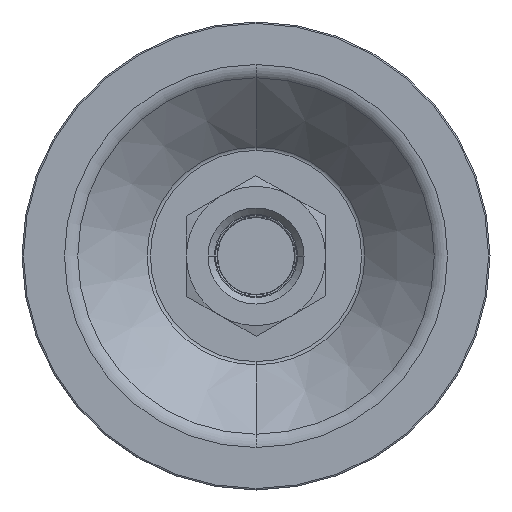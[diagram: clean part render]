
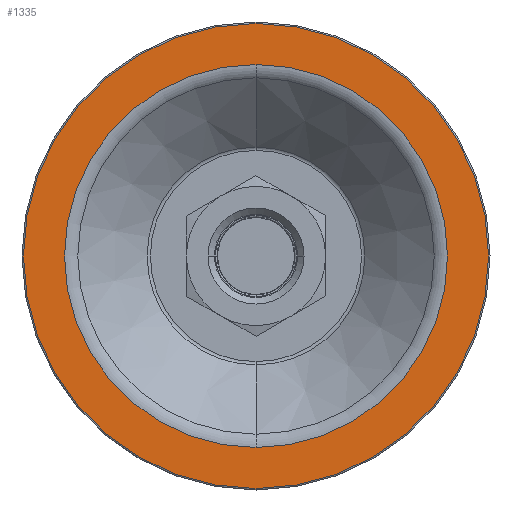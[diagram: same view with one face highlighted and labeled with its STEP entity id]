
A CAD part, front view. The second image highlights one B-rep face of the part: STEP entity #1335.
In plain terms, the highlighted planar face has unit normal (0, -1, 0).
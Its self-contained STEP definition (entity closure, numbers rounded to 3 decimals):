
#380 = AXIS2_PLACEMENT_3D ( 'NONE', #2606, #7900, #5296 ) ;
#389 = EDGE_LOOP ( 'NONE', ( #5267, #4303 ) ) ;
#939 = EDGE_CURVE ( 'NONE', #2965, #5353, #4649, .T. ) ;
#1234 = CARTESIAN_POINT ( 'NONE',  ( 0., 0., 0. ) ) ;
#1240 = FACE_OUTER_BOUND ( 'NONE', #389, .T. ) ;
#1335 = ADVANCED_FACE ( 'NONE', ( #1240, #2369 ), #1630, .F. ) ;
#1407 = AXIS2_PLACEMENT_3D ( 'NONE', #2442, #5814, #6488 ) ;
#1630 = PLANE ( 'NONE',  #3518 ) ;
#2198 = ORIENTED_EDGE ( 'NONE', *, *, #3231, .T. ) ;
#2262 = AXIS2_PLACEMENT_3D ( 'NONE', #3013, #4468, #2935 ) ;
#2369 = FACE_BOUND ( 'NONE', #6184, .T. ) ;
#2442 = CARTESIAN_POINT ( 'NONE',  ( 0., 0., 0. ) ) ;
#2606 = CARTESIAN_POINT ( 'NONE',  ( 0., 0., 0. ) ) ;
#2660 = AXIS2_PLACEMENT_3D ( 'NONE', #1234, #6461, #7158 ) ;
#2935 = DIRECTION ( 'NONE',  ( 0., 0., 1. ) ) ;
#2943 = EDGE_CURVE ( 'NONE', #5353, #2965, #5034, .T. ) ;
#2965 = VERTEX_POINT ( 'NONE', #3724 ) ;
#3013 = CARTESIAN_POINT ( 'NONE',  ( 0., 0., 0. ) ) ;
#3231 = EDGE_CURVE ( 'NONE', #3671, #5257, #7894, .T. ) ;
#3518 = AXIS2_PLACEMENT_3D ( 'NONE', #6279, #5524, #6901 ) ;
#3671 = VERTEX_POINT ( 'NONE', #7129 ) ;
#3724 = CARTESIAN_POINT ( 'NONE',  ( 0., 0., -48.45 ) ) ;
#3733 = EDGE_CURVE ( 'NONE', #5257, #3671, #6286, .T. ) ;
#4303 = ORIENTED_EDGE ( 'NONE', *, *, #939, .T. ) ;
#4468 = DIRECTION ( 'NONE',  ( 0., -1., 0. ) ) ;
#4593 = CARTESIAN_POINT ( 'NONE',  ( 0., 0., -39.901 ) ) ;
#4649 = CIRCLE ( 'NONE', #2262, 48.45 ) ;
#5034 = CIRCLE ( 'NONE', #1407, 48.45 ) ;
#5257 = VERTEX_POINT ( 'NONE', #4593 ) ;
#5267 = ORIENTED_EDGE ( 'NONE', *, *, #2943, .T. ) ;
#5296 = DIRECTION ( 'NONE',  ( 0., 0., 1. ) ) ;
#5353 = VERTEX_POINT ( 'NONE', #6925 ) ;
#5524 = DIRECTION ( 'NONE',  ( 0., 1., 0. ) ) ;
#5814 = DIRECTION ( 'NONE',  ( 0., -1., 0. ) ) ;
#6184 = EDGE_LOOP ( 'NONE', ( #2198, #8113 ) ) ;
#6279 = CARTESIAN_POINT ( 'NONE',  ( 48.75, 0., 0. ) ) ;
#6286 = CIRCLE ( 'NONE', #2660, 39.901 ) ;
#6461 = DIRECTION ( 'NONE',  ( 0., 1., 0. ) ) ;
#6488 = DIRECTION ( 'NONE',  ( 0., 0., 1. ) ) ;
#6901 = DIRECTION ( 'NONE',  ( 0., 0., 1. ) ) ;
#6925 = CARTESIAN_POINT ( 'NONE',  ( 0., 0., 48.45 ) ) ;
#7129 = CARTESIAN_POINT ( 'NONE',  ( 0., 0., 39.901 ) ) ;
#7158 = DIRECTION ( 'NONE',  ( 0., 0., 1. ) ) ;
#7894 = CIRCLE ( 'NONE', #380, 39.901 ) ;
#7900 = DIRECTION ( 'NONE',  ( 0., 1., 0. ) ) ;
#8113 = ORIENTED_EDGE ( 'NONE', *, *, #3733, .T. ) ;
